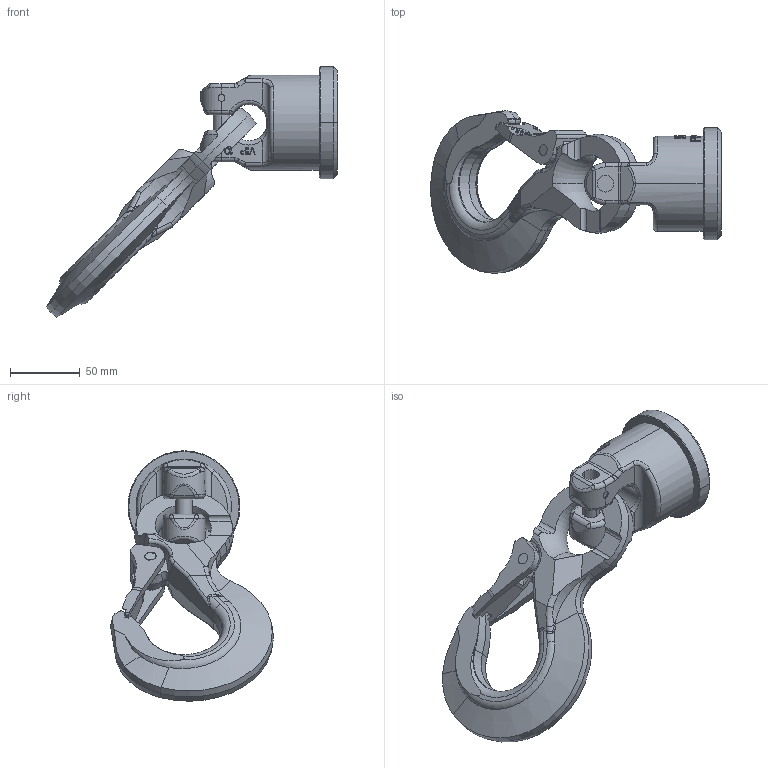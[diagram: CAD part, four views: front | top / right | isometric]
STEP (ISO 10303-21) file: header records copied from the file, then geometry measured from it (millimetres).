
FILE_DESCRIPTION((''),'2;1');
FILE_NAME('001-M31341-P-40_ASM','2018-04-27T',('Anja.Joas'),(''),'PRO/ENGINEER BY PARAMETRIC TECHNOLOGY CORPORATION, 2011490','PRO/ENGINEER BY PARAMETRIC TECHNOLOGY CORPORATION, 2011490','');
FILE_SCHEMA(('CONFIG_CONTROL_DESIGN'));
Length unit declared in the file: millimetre
Products named in the file (6): 001-M31341-P-20; 001-M31341-P-50; 001-M31166-001; 001-M31192-001; 001-M31166-002_ASM; 001-M31341-P-40_ASM
Assembly tree (5 placements, depth 3):
  001-M31341-P-40_ASM
    001-M31341-P-20
    001-M31341-P-50
    001-M31166-002_ASM
      001-M31166-001
      001-M31192-001
Bounding box: 208.21 x 116.5 x 179.21 mm (x, y, z)
Volume: 478012.5 mm3; surface area: 80763.6 mm2
Topology: 4 solids, 4 shells, 711 faces, 1922 edges, 1226 vertices
Faces by surface type: plane 438, cylinder 119, bspline 46, cone 40, torus 34, sphere 34
Entity records: 25399 total; most frequent: CARTESIAN_POINT 8220, ORIENTED_EDGE 3788, DIRECTION 3228, EDGE_CURVE 1894, VERTEX_POINT 1226, AXIS2_PLACEMENT_3D 1096, VECTOR 1036, LINE 1036
